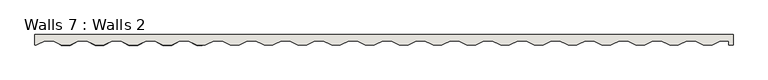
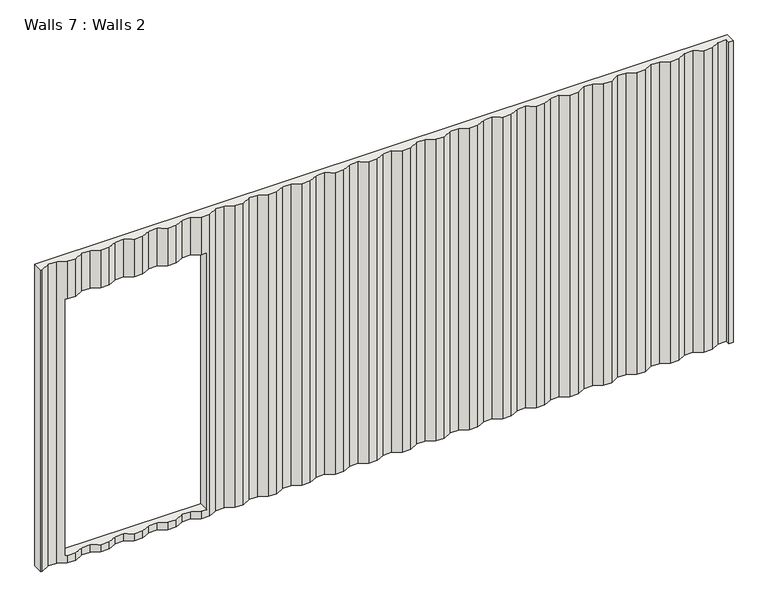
"""IFC4 building model written with IfcOpenShell, lengths in millimetres: wall geometry, Walls 7 : Walls 2."""

from ifc_helpers import new_model, si_unit, origin, place, context, project, spatial, faceted_brep, source, transform, mapped, element, save


def walls_7_walls_2_6c4b2b37(model_context):
    return source(origin(), model_context, "Body", "Brep", [
        faceted_brep([(1702.8997533, -2887.7772175, 3056.9999942), (-4042.1108023, -2887.7772175, 3056.9999942), (-4042.1108023, -2974.7772175, 3056.9999942), (-4029.8963726, -2974.7772175, 3056.9999942), (-3961.8963707, -2938.7772165, 3056.9999942), (-3891.8963644, -2938.7772165, 3056.9999942), (-3823.8963658, -2974.7772175, 3056.9999942), (-3751.8963651, -2974.7772175, 3056.9999942), (-3683.8963632, -2938.7772165, 3056.9999942), (-3613.8963569, -2938.7772165, 3056.9999942), (-3545.8963651, -2974.7772175, 3056.9999942), (-3473.8963651, -2974.7772175, 3056.9999942), (-3405.8963632, -2938.7772165, 3056.9999942), (-3335.8963569, -2938.7772165, 3056.9999942), (-3267.8963651, -2974.7772175, 3056.9999942), (-3195.8963651, -2974.7772175, 3056.9999942), (-3127.8963632, -2938.7772165, 3056.9999942), (-3057.8963569, -2938.7772165, 3056.9999942), (-2989.8963651, -2974.7772175, 3056.9999942), (-2917.8963651, -2974.7772175, 3056.9999942), (-2849.8963632, -2938.7772165, 3056.9999942), (-2779.8963569, -2938.7772165, 3056.9999942), (-2711.8963651, -2974.7772175, 3056.9999942), (-2639.8963651, -2974.7772175, 3056.9999942), (-2571.8963632, -2938.7772165, 3056.9999942), (-2501.8963569, -2938.7772165, 3056.9999942), (-2433.8963651, -2974.7772175, 3056.9999942), (-2361.8963651, -2974.7772175, 3056.9999942), (-2293.8963632, -2938.7772165, 3056.9999942), (-2223.8963569, -2938.7772165, 3056.9999942), (-2155.8963651, -2974.7772175, 3056.9999942), (-2083.8963651, -2974.7772175, 3056.9999942), (-2015.8963632, -2938.7772165, 3056.9999942), (-1945.8963569, -2938.7772165, 3056.9999942), (-1877.8963651, -2974.7772175, 3056.9999942), (-1805.8963651, -2974.7772175, 3056.9999942), (-1737.8963632, -2938.7772165, 3056.9999942), (-1667.8963569, -2938.7772165, 3056.9999942), (-1599.8963651, -2974.7772175, 3056.9999942), (-1527.8963651, -2974.7772175, 3056.9999942), (-1459.8963632, -2938.7772165, 3056.9999942), (-1389.8963569, -2938.7772165, 3056.9999942), (-1321.8963651, -2974.7772175, 3056.9999942), (-1249.8963651, -2974.7772175, 3056.9999942), (-1181.8963632, -2938.7772165, 3056.9999942), (-1111.8963569, -2938.7772165, 3056.9999942), (-1043.8963651, -2974.7772175, 3056.9999942), (-971.8963651, -2974.7772175, 3056.9999942), (-903.8963632, -2938.7772165, 3056.9999942), (-833.8963569, -2938.7772165, 3056.9999942), (-765.8963651, -2974.7772175, 3056.9999942), (-693.8963651, -2974.7772175, 3056.9999942), (-625.8963632, -2938.7772165, 3056.9999942), (-555.8963569, -2938.7772165, 3056.9999942), (-487.8963651, -2974.7772175, 3056.9999942), (-415.8963651, -2974.7772175, 3056.9999942), (-347.8963632, -2938.7772165, 3056.9999942), (-277.8963569, -2938.7772165, 3056.9999942), (-209.8963651, -2974.7772175, 3056.9999942), (-137.8963651, -2974.7772175, 3056.9999942), (-69.8963632, -2938.7772165, 3056.9999942), (0.1036431, -2938.7772165, 3056.9999942), (68.1036349, -2974.7772175, 3056.9999942), (140.1036349, -2974.7772175, 3056.9999942), (208.1036368, -2938.7772165, 3056.9999942), (278.1036431, -2938.7772165, 3056.9999942), (346.1036349, -2974.7772175, 3056.9999942), (418.1036349, -2974.7772175, 3056.9999942), (486.1036368, -2938.7772165, 3056.9999942), (556.1036431, -2938.7772165, 3056.9999942), (624.1036349, -2974.7772175, 3056.9999942), (696.1036349, -2974.7772175, 3056.9999942), (764.1036368, -2938.7772165, 3056.9999942), (834.1036431, -2938.7772165, 3056.9999942), (902.1036349, -2974.7772175, 3056.9999942), (974.1036349, -2974.7772175, 3056.9999942), (1042.1036368, -2938.7772165, 3056.9999942), (1112.1036431, -2938.7772165, 3056.9999942), (1180.1036349, -2974.7772175, 3056.9999942), (1252.1036349, -2974.7772175, 3056.9999942), (1320.1036368, -2938.7772165, 3056.9999942), (1390.1036431, -2938.7772165, 3056.9999942), (1458.1036349, -2974.7772175, 3056.9999942), (1530.1036349, -2974.7772175, 3056.9999942), (1598.1036368, -2938.7772165, 3056.9999942), (1668.1036431, -2938.7772165, 3056.9999942), (1668.1036431, -2974.7772175, 3056.9999942), (1702.8997533, -2974.7772175, 3056.9999942), (-4042.1108023, -2887.7772175, 411.0), (1702.8997533, -2887.7772175, 411.0), (1702.8997533, -2974.7772175, 411.0), (1668.1036431, -2974.7772175, 411.0), (1668.1036431, -2938.7772165, 411.0), (1598.1036368, -2938.7772165, 411.0), (1530.1036349, -2974.7772175, 411.0), (1458.1036349, -2974.7772175, 411.0), (1390.1036431, -2938.7772165, 411.0), (1320.1036368, -2938.7772165, 411.0), (1252.1036349, -2974.7772175, 411.0), (1180.1036349, -2974.7772175, 411.0), (1112.1036431, -2938.7772165, 411.0), (1042.1036368, -2938.7772165, 411.0), (974.1036349, -2974.7772175, 411.0), (902.1036349, -2974.7772175, 411.0), (834.1036431, -2938.7772165, 411.0), (764.1036368, -2938.7772165, 411.0), (696.1036349, -2974.7772175, 411.0), (624.1036349, -2974.7772175, 411.0), (556.1036431, -2938.7772165, 411.0), (486.1036368, -2938.7772165, 411.0), (418.1036349, -2974.7772175, 411.0), (346.1036349, -2974.7772175, 411.0), (278.1036431, -2938.7772165, 411.0), (208.1036368, -2938.7772165, 411.0), (140.1036349, -2974.7772175, 411.0), (68.1036349, -2974.7772175, 411.0), (0.1036431, -2938.7772165, 411.0), (-69.8963632, -2938.7772165, 411.0), (-137.8963651, -2974.7772175, 411.0), (-209.8963651, -2974.7772175, 411.0), (-277.8963569, -2938.7772165, 411.0), (-347.8963632, -2938.7772165, 411.0), (-415.8963651, -2974.7772175, 411.0), (-487.8963651, -2974.7772175, 411.0), (-555.8963569, -2938.7772165, 411.0), (-625.8963632, -2938.7772165, 411.0), (-693.8963651, -2974.7772175, 411.0), (-765.8963651, -2974.7772175, 411.0), (-833.8963569, -2938.7772165, 411.0), (-903.8963632, -2938.7772165, 411.0), (-971.8963651, -2974.7772175, 411.0), (-1043.8963651, -2974.7772175, 411.0), (-1111.8963569, -2938.7772165, 411.0), (-1181.8963632, -2938.7772165, 411.0), (-1249.8963651, -2974.7772175, 411.0), (-1321.8963651, -2974.7772175, 411.0), (-1389.8963569, -2938.7772165, 411.0), (-1459.8963632, -2938.7772165, 411.0), (-1527.8963651, -2974.7772175, 411.0), (-1599.8963651, -2974.7772175, 411.0), (-1667.8963569, -2938.7772165, 411.0), (-1737.8963632, -2938.7772165, 411.0), (-1805.8963651, -2974.7772175, 411.0), (-1877.8963651, -2974.7772175, 411.0), (-1945.8963569, -2938.7772165, 411.0), (-2015.8963632, -2938.7772165, 411.0), (-2083.8963651, -2974.7772175, 411.0), (-2155.8963651, -2974.7772175, 411.0), (-2223.8963569, -2938.7772165, 411.0), (-2293.8963632, -2938.7772165, 411.0), (-2361.8963651, -2974.7772175, 411.0), (-2433.8963651, -2974.7772175, 411.0), (-2501.8963569, -2938.7772165, 411.0), (-2571.8963632, -2938.7772165, 411.0), (-2639.8963651, -2974.7772175, 411.0), (-2711.8963651, -2974.7772175, 411.0), (-2779.8963569, -2938.7772165, 411.0), (-2849.8963632, -2938.7772165, 411.0), (-2917.8963651, -2974.7772175, 411.0), (-2989.8963651, -2974.7772175, 411.0), (-3057.8963569, -2938.7772165, 411.0), (-3127.8963632, -2938.7772165, 411.0), (-3195.8963651, -2974.7772175, 411.0), (-3267.8963651, -2974.7772175, 411.0), (-3335.8963569, -2938.7772165, 411.0), (-3405.8963632, -2938.7772165, 411.0), (-3473.8963651, -2974.7772175, 411.0), (-3545.8963651, -2974.7772175, 411.0), (-3613.8963569, -2938.7772165, 411.0), (-3683.8963632, -2938.7772165, 411.0), (-3751.8963651, -2974.7772175, 411.0), (-3823.8963658, -2974.7772175, 411.0), (-3891.8963644, -2938.7772165, 411.0), (-3961.8963707, -2938.7772165, 411.0), (-4029.8963726, -2974.7772175, 411.0), (-4042.1108023, -2974.7772175, 411.0), (-3841.1108023, -2887.7772175, 2728.0508653), (-3841.1108023, -2887.7772175, 474.0508653), (-2666.1108023, -2887.7772175, 474.0508653), (-2666.1108023, -2887.7772175, 2728.0508653), (-3823.8963658, -2974.7772175, 474.0508653), (-3841.1108023, -2965.6636919, 474.0508653), (-3841.1108023, -2965.6636919, 2728.0508653), (-3823.8963658, -2974.7772175, 2728.0508653), (-3751.8963651, -2974.7772175, 2728.0508653), (-3751.8963651, -2974.7772175, 474.0508653), (-3683.8963632, -2938.7772165, 2728.0508653), (-3683.8963632, -2938.7772165, 474.0508653), (-3613.8963569, -2938.7772165, 2728.0508653), (-3613.8963569, -2938.7772165, 474.0508653), (-3545.8963651, -2974.7772175, 2728.0508653), (-3545.8963651, -2974.7772175, 474.0508653), (-3473.8963651, -2974.7772175, 2728.0508653), (-3473.8963651, -2974.7772175, 474.0508653), (-3405.8963632, -2938.7772165, 2728.0508653), (-3405.8963632, -2938.7772165, 474.0508653), (-3335.8963569, -2938.7772165, 2728.0508653), (-3335.8963569, -2938.7772165, 474.0508653), (-3267.8963651, -2974.7772175, 2728.0508653), (-3267.8963651, -2974.7772175, 474.0508653), (-3195.8963651, -2974.7772175, 2728.0508653), (-3195.8963651, -2974.7772175, 474.0508653), (-3127.8963632, -2938.7772165, 2728.0508653), (-3127.8963632, -2938.7772165, 474.0508653), (-3057.8963569, -2938.7772165, 2728.0508653), (-3057.8963569, -2938.7772165, 474.0508653), (-2989.8963651, -2974.7772175, 2728.0508653), (-2989.8963651, -2974.7772175, 474.0508653), (-2917.8963651, -2974.7772175, 2728.0508653), (-2917.8963651, -2974.7772175, 474.0508653), (-2849.8963632, -2938.7772165, 2728.0508653), (-2849.8963632, -2938.7772165, 474.0508653), (-2779.8963569, -2938.7772165, 2728.0508653), (-2779.8963569, -2938.7772165, 474.0508653), (-2711.8963651, -2974.7772175, 2728.0508653), (-2711.8963651, -2974.7772175, 474.0508653), (-2666.1108023, -2974.7772175, 2728.0508653), (-2666.1108023, -2974.7772175, 474.0508653)], [[[0, 1, 2, 3, 4, 5, 6, 7, 8, 9, 10, 11, 12, 13, 14, 15, 16, 17, 18, 19, 20, 21, 22, 23, 24, 25, 26, 27, 28, 29, 30, 31, 32, 33, 34, 35, 36, 37, 38, 39, 40, 41, 42, 43, 44, 45, 46, 47, 48, 49, 50, 51, 52, 53, 54, 55, 56, 57, 58, 59, 60, 61, 62, 63, 64, 65, 66, 67, 68, 69, 70, 71, 72, 73, 74, 75, 76, 77, 78, 79, 80, 81, 82, 83, 84, 85, 86, 87]], [[88, 89, 90, 91, 92, 93, 94, 95, 96, 97, 98, 99, 100, 101, 102, 103, 104, 105, 106, 107, 108, 109, 110, 111, 112, 113, 114, 115, 116, 117, 118, 119, 120, 121, 122, 123, 124, 125, 126, 127, 128, 129, 130, 131, 132, 133, 134, 135, 136, 137, 138, 139, 140, 141, 142, 143, 144, 145, 146, 147, 148, 149, 150, 151, 152, 153, 154, 155, 156, 157, 158, 159, 160, 161, 162, 163, 164, 165, 166, 167, 168, 169, 170, 171, 172, 173, 174, 175]], [[89, 88, 1, 0], [176, 177, 178, 179]], [[88, 175, 2, 1]], [[0, 87, 90, 89]], [[4, 3, 174, 173]], [[5, 4, 173, 172]], [[6, 5, 172, 171, 180, 181, 182, 183]], [[7, 6, 183, 184]], [[171, 170, 185, 180]], [[8, 7, 184, 186]], [[170, 169, 187, 185]], [[9, 8, 186, 188]], [[169, 168, 189, 187]], [[10, 9, 188, 190]], [[168, 167, 191, 189]], [[11, 10, 190, 192]], [[167, 166, 193, 191]], [[12, 11, 192, 194]], [[166, 165, 195, 193]], [[13, 12, 194, 196]], [[165, 164, 197, 195]], [[14, 13, 196, 198]], [[164, 163, 199, 197]], [[15, 14, 198, 200]], [[163, 162, 201, 199]], [[16, 15, 200, 202]], [[162, 161, 203, 201]], [[17, 16, 202, 204]], [[161, 160, 205, 203]], [[18, 17, 204, 206]], [[160, 159, 207, 205]], [[19, 18, 206, 208]], [[159, 158, 209, 207]], [[20, 19, 208, 210]], [[158, 157, 211, 209]], [[21, 20, 210, 212]], [[157, 156, 213, 211]], [[22, 21, 212, 214]], [[156, 155, 215, 213]], [[23, 22, 214, 216, 217, 215, 155, 154]], [[24, 23, 154, 153]], [[25, 24, 153, 152]], [[26, 25, 152, 151]], [[27, 26, 151, 150]], [[28, 27, 150, 149]], [[29, 28, 149, 148]], [[30, 29, 148, 147]], [[31, 30, 147, 146]], [[32, 31, 146, 145]], [[33, 32, 145, 144]], [[34, 33, 144, 143]], [[35, 34, 143, 142]], [[36, 35, 142, 141]], [[37, 36, 141, 140]], [[38, 37, 140, 139]], [[39, 38, 139, 138]], [[40, 39, 138, 137]], [[41, 40, 137, 136]], [[42, 41, 136, 135]], [[43, 42, 135, 134]], [[44, 43, 134, 133]], [[45, 44, 133, 132]], [[46, 45, 132, 131]], [[47, 46, 131, 130]], [[48, 47, 130, 129]], [[49, 48, 129, 128]], [[50, 49, 128, 127]], [[51, 50, 127, 126]], [[52, 51, 126, 125]], [[53, 52, 125, 124]], [[54, 53, 124, 123]], [[55, 54, 123, 122]], [[56, 55, 122, 121]], [[57, 56, 121, 120]], [[58, 57, 120, 119]], [[59, 58, 119, 118]], [[60, 59, 118, 117]], [[61, 60, 117, 116]], [[62, 61, 116, 115]], [[63, 62, 115, 114]], [[64, 63, 114, 113]], [[65, 64, 113, 112]], [[66, 65, 112, 111]], [[67, 66, 111, 110]], [[68, 67, 110, 109]], [[69, 68, 109, 108]], [[70, 69, 108, 107]], [[71, 70, 107, 106]], [[72, 71, 106, 105]], [[73, 72, 105, 104]], [[74, 73, 104, 103]], [[75, 74, 103, 102]], [[76, 75, 102, 101]], [[77, 76, 101, 100]], [[78, 77, 100, 99]], [[79, 78, 99, 98]], [[80, 79, 98, 97]], [[81, 80, 97, 96]], [[82, 81, 96, 95]], [[83, 82, 95, 94]], [[84, 83, 94, 93]], [[85, 84, 93, 92]], [[181, 177, 176, 182]], [[182, 176, 179, 216, 214, 212, 210, 208, 206, 204, 202, 200, 198, 196, 194, 192, 190, 188, 186, 184, 183]], [[216, 179, 178, 217]], [[177, 181, 180, 185, 187, 189, 191, 193, 195, 197, 199, 201, 203, 205, 207, 209, 211, 213, 215, 217, 178]], [[86, 85, 92, 91]], [[87, 86, 91, 90]], [[3, 2, 175, 174]]]),
    ])


if __name__ == "__main__":
    model = new_model("IFC4")
    model_context = context("Model", 3, world=origin())
    ifc_project = project(units=[si_unit("LENGTHUNIT", "METRE", prefix="MILLI")], contexts=[model_context])
    site = spatial("IfcSite", under=ifc_project)
    building = spatial("IfcBuilding", under=site)
    placement = place(None, origin())
    walls_7_walls_2_shape = walls_7_walls_2_6c4b2b37(model_context)
    element("IfcWall", 1, ObjectType="Walls 7 : Walls 2", at=placement, inside=building, context=model_context, shape_type="MappedRepresentation", body=[
        mapped(walls_7_walls_2_shape, transform((0.0, 0.0, 0.0), x_axis=(1.0, 0.0, 0.0), y_axis=(0.0, 1.0, 0.0), z_axis=(0.0, 0.0, 1.0))),
    ])
    save(model, "model.ifc")
